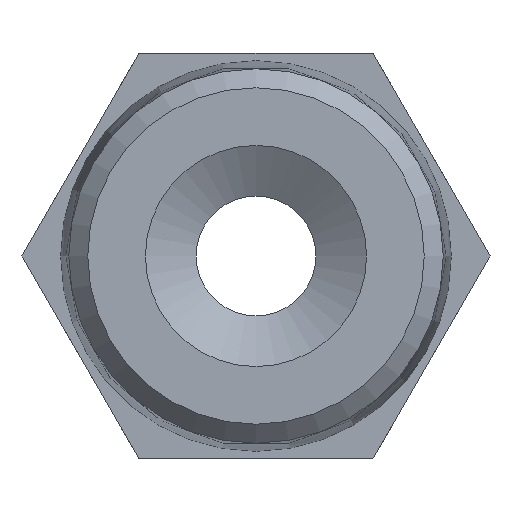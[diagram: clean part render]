
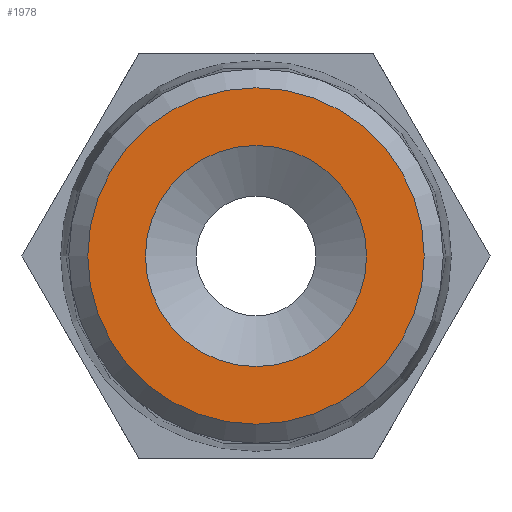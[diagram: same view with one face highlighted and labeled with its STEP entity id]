
A CAD part, front view. The second image highlights one B-rep face of the part: STEP entity #1978.
In plain terms, the highlighted planar face has unit normal (0, -1, 0).
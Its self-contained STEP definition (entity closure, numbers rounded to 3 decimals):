
#1725=CARTESIAN_POINT('',(6.,0.,0.0));
#1726=VERTEX_POINT('',#1725);
#1727=CARTESIAN_POINT('',(0.,0.,0.0));
#1728=DIRECTION('',(0.0,1.0,0.0));
#1729=DIRECTION('',(1.0,0.0,0.0));
#1730=AXIS2_PLACEMENT_3D('',#1727,#1728,#1729);
#1731=CIRCLE('',#1730,6.);
#1732=EDGE_CURVE('',#1726,#1726,#1731,.T.);
#1952=CARTESIAN_POINT('',(9.131,0.0,0.0));
#1953=VERTEX_POINT('',#1952);
#1954=CARTESIAN_POINT('',(0.,0.,0.0));
#1955=DIRECTION('',(0.0,-1.0,0.0));
#1956=DIRECTION('',(1.0,0.0,0.0));
#1957=AXIS2_PLACEMENT_3D('',#1954,#1955,#1956);
#1958=CIRCLE('',#1957,9.131);
#1959=EDGE_CURVE('',#1953,#1953,#1958,.T.);
#1967=CARTESIAN_POINT('',(4.566,0.0,0.0));
#1968=DIRECTION('',(0.0,-1.0,0.0));
#1969=DIRECTION('',(0.0,0.0,-1.0));
#1970=AXIS2_PLACEMENT_3D('',#1967,#1968,#1969);
#1971=PLANE('',#1970);
#1972=ORIENTED_EDGE('',*,*,#1959,.T.);
#1973=EDGE_LOOP('',(#1972));
#1974=FACE_OUTER_BOUND('',#1973,.T.);
#1975=ORIENTED_EDGE('',*,*,#1732,.T.);
#1976=EDGE_LOOP('',(#1975));
#1977=FACE_BOUND('',#1976,.T.);
#1978=ADVANCED_FACE('',(#1974,#1977),#1971,.T.);
